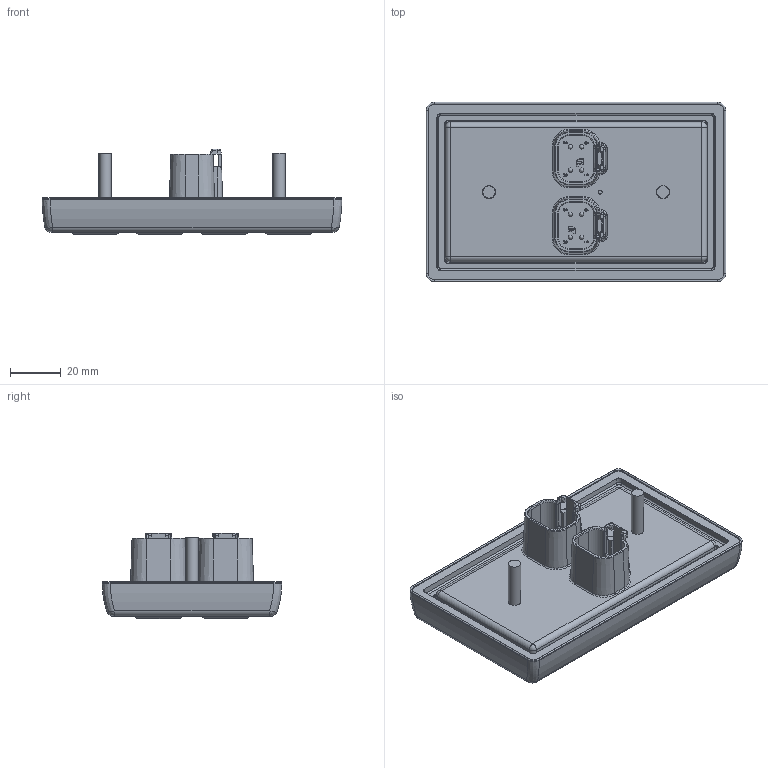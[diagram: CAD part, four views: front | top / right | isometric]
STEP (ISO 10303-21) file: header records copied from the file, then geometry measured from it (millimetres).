
FILE_DESCRIPTION (( 'STEP AP203' ), '1' );
FILE_NAME ('2x4.STEP', '2012-02-28T22:40:34', ( 'Tom Edwards' ), ( 'HED' ), 'SwSTEP 2.0', 'SolidWorks 2010', '' );
FILE_SCHEMA (( 'CONFIG_CONTROL_DESIGN' ));
Length unit declared in the file: inch
Products named in the file (5): 415-11-618; CL-610-500; 175-45-635; 2x4; 186-09-601
Assembly tree (12 placements, depth 2):
  2x4
    CL-610-500
    186-09-601
    175-45-635  x8
    415-11-618  x2
Bounding box: 118.11 x 70.74 x 33.73 mm (x, y, z)
Volume: 62195.7 mm3; surface area: 56351.1 mm2
Topology: 12 solids, 12 shells, 1804 faces, 4331 edges, 2753 vertices
Faces by surface type: plane 915, cylinder 456, cone 142, bspline 123, torus 114, sphere 54
Full cylindrical faces by diameter (mm): 1.524 x8, 1.562 x8, 1.575 x8, 1.6 x1, 1.638 x8, 2.032 x2, 2.794 x32, 3.048 x8, 3.175 x5, 4.826 x2, 5.08 x2, 8.255 x1
Entity records: 50738 total; most frequent: CARTESIAN_POINT 13294, DIRECTION 7501, ORIENTED_EDGE 7422, EDGE_CURVE 3711, AXIS2_PLACEMENT_3D 2646, VERTEX_POINT 2429, VECTOR 2209, LINE 2209
